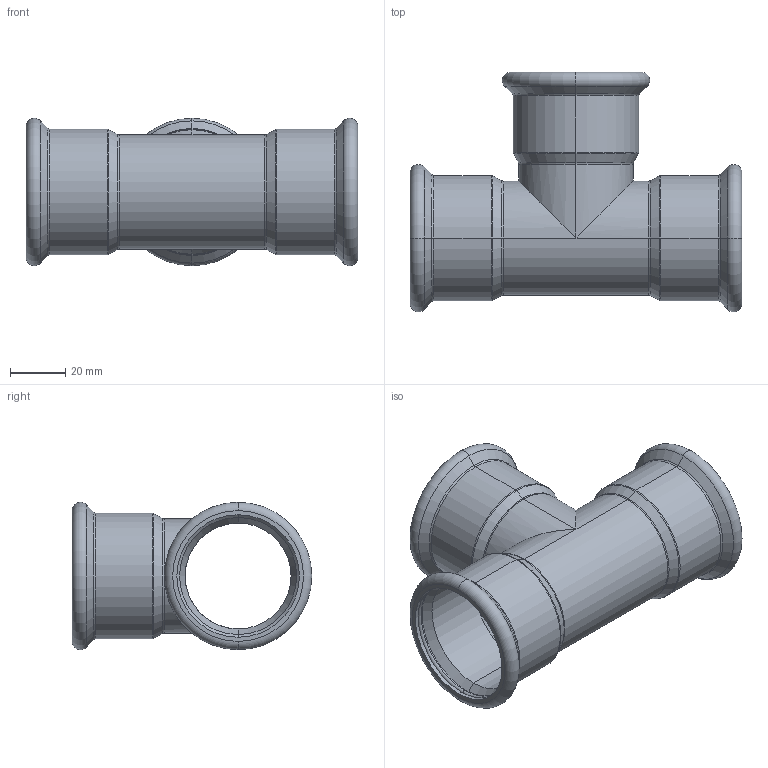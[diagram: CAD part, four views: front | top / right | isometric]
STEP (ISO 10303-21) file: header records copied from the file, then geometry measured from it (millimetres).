
FILE_DESCRIPTION (( 'STEP AP214' ), '1' );
FILE_NAME ('T420000.STEP', '2025-08-17T12:52:22', ( '' ), ( '' ), 'SwSTEP 2.0', 'SolidWorks 2020', '' );
FILE_SCHEMA (( 'AUTOMOTIVE_DESIGN' ));
Length unit declared in the file: millimetre
Products named in the file (1): T420000
Bounding box: 120 x 86.65 x 53.29 mm (x, y, z)
Volume: 35437 mm3; surface area: 48828.9 mm2
Topology: 4 solids, 4 shells, 100 faces, 202 edges, 106 vertices
Faces by surface type: torus 42, cylinder 28, cone 24, plane 6
Entity records: 3763 total; most frequent: DIRECTION 544, CARTESIAN_POINT 421, ORIENTED_EDGE 404, AXIS2_PLACEMENT_3D 245, EDGE_CURVE 202, CIRCLE 144, EDGE_LOOP 106, UNCERTAINTY_MEASURE_WITH_UNIT 106
